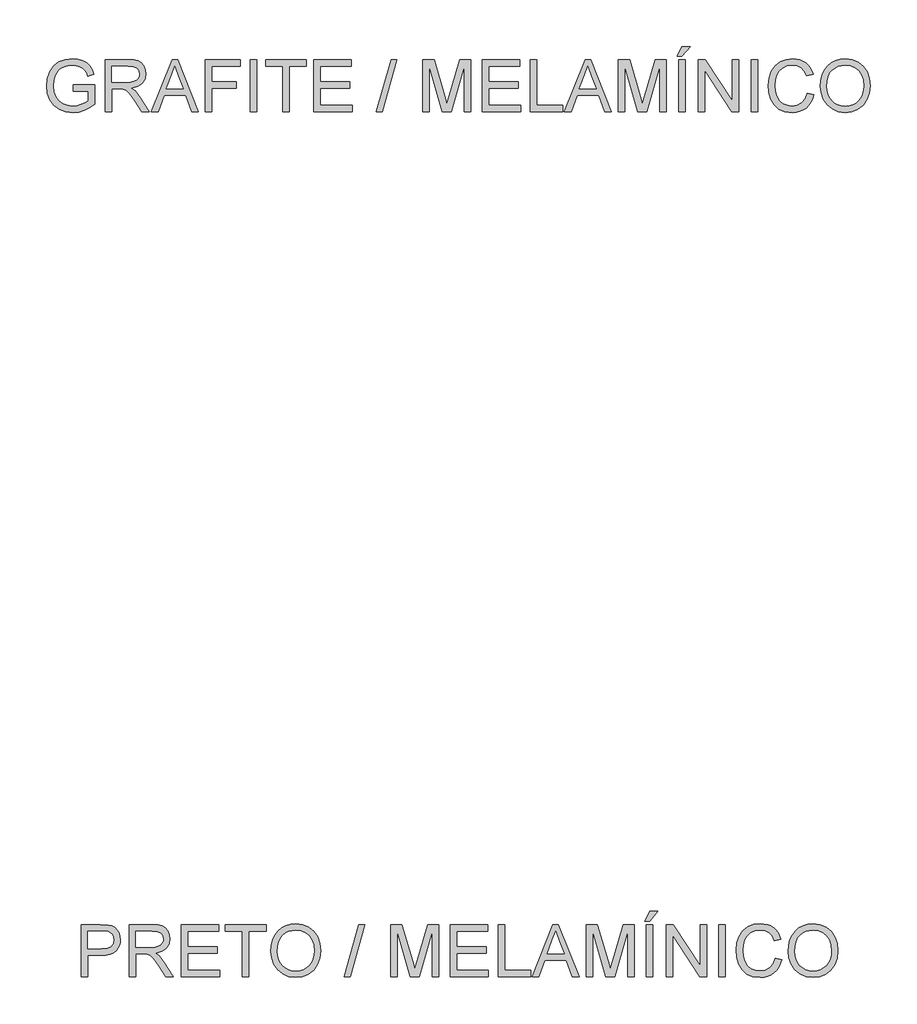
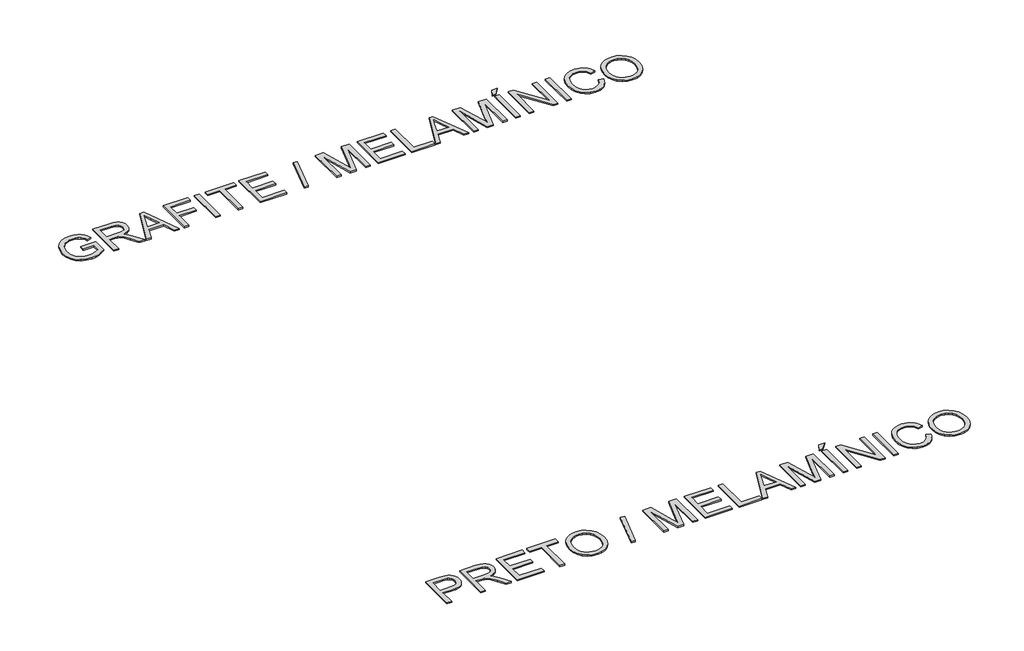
# One storey, part 31 of 67: 2 proxies.
"""IFC4 building model written with IfcOpenShell, lengths in millimetres."""

from ifc_helpers import new_model, si_unit, origin, origin_with_axes, place, context, project, spatial, polyline, outline, extrude, element, save

model = new_model("IFC4")

# Units and contexts
model_context = context("Model", 3, world=origin())
ifc_project = project(units=[si_unit("LENGTHUNIT", "METRE", prefix="MILLI")], contexts=[model_context])

# Site, building, storey
site = spatial("IfcSite", under=ifc_project)
building = spatial("IfcBuilding", under=site)
storey = spatial("IfcBuildingStorey", under=building, Name="Marelli - Linha COLAB - Planta Baixa", Elevation=0.0)

# Proxies
placement = place(None, origin())
element("IfcBuildingElementProxy", 1, Name="300mm Arial", ObjectType="300mm Arial", at=placement, inside=storey, context=model_context, shape_type="SweptSolid", body=[
    extrude(outline(polyline([(31176.9629078, -122412.8440816), (31176.9629078, -122375.1729653), (31299.3940358, -122375.1729653), (31299.3940358, -122487.8184322), (31269.6415794, -122508.5117945), (31238.951024, -122523.355833), (31207.3959458, -122532.2953654), (31175.0499214, -122535.2752096), (31132.7894772, -122530.5387289), (31094.594129, -122516.3292869), (31062.864307, -122493.1435241), (31040.000441, -122461.4780814), (31026.177275, -122423.4942654), (31021.569553, -122381.3533828), (31026.1588809, -122338.9089976), (31039.9268646, -122299.4260625), (31062.3032869, -122266.3074859), (31092.7179309, -122242.9561762), (31129.7636478, -122229.1054191), (31172.033289, -122224.4885001), (31203.0641353, -122227.1648416), (31230.9679847, -122235.1938661), (31254.4664471, -122247.9961596), (31272.2811327, -122264.9923077), (31285.4605052, -122287.0008481), (31295.0530282, -122314.8403181), (31260.3249679, -122324.6259792), (31252.5718548, -122304.7695485), (31243.1448787, -122289.7875542), (31230.6736791, -122278.493577), (31213.7878955, -122269.7011973), (31193.6555533, -122264.0450116), (31171.4446778, -122262.1596164), (31145.4446178, -122264.1921644), (31123.2153483, -122270.2898085), (31104.8396426, -122279.6891935), (31090.4002743, -122291.6269642), (31071.0128932, -122320.6528536), (31062.1837253, -122349.0901318), (31059.2406693, -122379.8082784), (31062.7815335, -122415.8331228), (31073.4041261, -122445.4752146), (31090.7865504, -122468.5230216), (31114.6069096, -122484.7650117), (31142.4831678, -122494.3943229), (31172.033289, -122497.6040933), (31198.1253195, -122495.1852692), (31223.5735566, -122487.9287968), (31245.6740674, -122477.9316036), (31261.7229195, -122467.2906169), (31261.7229195, -122412.8440816), (31176.9629078, -122412.8440816)])), origin_with_axes(), (0.0, 0.0, 1.0), 10.0),
    extrude(outline(polyline([(31360.6095998, -122530.5663201), (31360.6095998, -122229.1973896), (31490.4719441, -122229.1973896), (31525.3747483, -122231.2299376), (31550.7678031, -122237.3275817), (31569.3274497, -122248.5847708), (31583.7300298, -122266.0959537), (31592.973065, -122287.8101885), (31596.0540767, -122311.6765329), (31590.949714, -122341.3646099), (31575.6366259, -122365.9759154), (31564.0368468, -122376.0052983), (31549.65496, -122384.0205273), (31512.5448638, -122394.0085235), (31533.9555959, -122410.1217548), (31564.4898015, -122448.8965171), (31614.742482, -122530.5663201), (31570.9645246, -122530.5663201), (31531.7483039, -122468.0999573), (31503.4213903, -122426.750021), (31483.5189743, -122407.2154871), (31465.6031212, -122400.0417882), (31443.7509307, -122398.717413), (31398.2807161, -122398.717413), (31398.2807161, -122530.5663201), (31360.6095998, -122530.5663201)]), holes=[polyline([(31398.2807161, -122361.0462967), (31482.5992694, -122361.0462967), (31506.8151017, -122359.7127245), (31525.6046746, -122355.7120078), (31539.7497373, -122348.7774322), (31550.0320391, -122338.6422832), (31556.29523, -122326.3826157), (31558.3829604, -122313.0744845), (31554.4006378, -122294.6987789), (31542.45367, -122279.8915286), (31521.8982635, -122270.1242616), (31492.0906248, -122266.8685059), (31398.2807161, -122266.8685059), (31398.2807161, -122361.0462967)])]), origin_with_axes(), (0.0, 0.0, 1.0), 10.0),
    extrude(outline(polyline([(31626.8825879, -122530.5663201), (31747.1800003, -122229.1973896), (31779.2593103, -122229.1973896), (31899.5567227, -122530.5663201), (31859.7518908, -122530.5663201), (31825.2445597, -122436.3885293), (31701.1211745, -122436.3885293), (31666.6874197, -122530.5663201), (31626.8825879, -122530.5663201)]), holes=[polyline([(31714.9535375, -122398.717413), (31811.485773, -122398.717413), (31784.3360818, -122324.6259792), (31763.2196553, -122266.8685059), (31744.4576735, -122318.1512561), (31714.9535375, -122398.717413)])]), origin_with_axes(), (0.0, 0.0, 1.0), 10.0),
    extrude(outline(polyline([(31939.803013, -122530.5663201), (31939.803013, -122229.1973896), (32142.2852631, -122229.1973896), (32142.2852631, -122266.8685059), (31977.4741293, -122266.8685059), (31977.4741293, -122356.3374072), (32118.7408154, -122356.3374072), (32118.7408154, -122394.0085235), (31977.4741293, -122394.0085235), (31977.4741293, -122530.5663201), (31939.803013, -122530.5663201)])), origin_with_axes(), (0.0, 0.0, 1.0), 10.0),
    extrude(outline(polyline([(32198.7919376, -122530.5663201), (32198.7919376, -122229.1973896), (32236.4630539, -122229.1973896), (32236.4630539, -122530.5663201), (32198.7919376, -122530.5663201)])), origin_with_axes(), (0.0, 0.0, 1.0), 10.0),
    extrude(outline(polyline([(32387.1475191, -122530.5663201), (32387.1475191, -122266.8685059), (32288.2608388, -122266.8685059), (32288.2608388, -122229.1973896), (32523.7053157, -122229.1973896), (32523.7053157, -122266.8685059), (32424.8186354, -122266.8685059), (32424.8186354, -122530.5663201), (32387.1475191, -122530.5663201)])), origin_with_axes(), (0.0, 0.0, 1.0), 10.0),
    extrude(outline(polyline([(32566.0853216, -122530.5663201), (32566.0853216, -122229.1973896), (32782.6942403, -122229.1973896), (32782.6942403, -122266.8685059), (32603.7564379, -122266.8685059), (32603.7564379, -122356.3374072), (32773.2764612, -122356.3374072), (32773.2764612, -122394.0085235), (32603.7564379, -122394.0085235), (32603.7564379, -122492.8952038), (32787.4031299, -122492.8952038), (32787.4031299, -122530.5663201), (32566.0853216, -122530.5663201)])), origin_with_axes(), (0.0, 0.0, 1.0), 10.0),
    extrude(outline(polyline([(32928.669816, -122530.5663201), (33013.4298277, -122229.1973896), (33047.422124, -122229.1973896), (32962.6621124, -122530.5663201), (32928.669816, -122530.5663201)])), origin_with_axes(), (0.0, 0.0, 1.0), 10.0),
    extrude(outline(polyline([(33197.0765197, -122530.5663201), (33197.0765197, -122229.1973896), (33261.8973272, -122229.1973896), (33323.5543496, -122441.6124536), (33335.9887611, -122485.9790223), (33349.4532421, -122437.9336337), (33410.0801949, -122229.1973896), (33474.9010024, -122229.1973896), (33474.9010024, -122530.5663201), (33437.2298861, -122530.5663201), (33437.2298861, -122266.8685059), (33361.5197715, -122530.5663201), (33310.4577506, -122530.5663201), (33234.747636, -122266.8685059), (33234.747636, -122530.5663201), (33197.0765197, -122530.5663201)])), origin_with_axes(), (0.0, 0.0, 1.0), 10.0),
    extrude(outline(polyline([(33540.825456, -122530.5663201), (33540.825456, -122229.1973896), (33757.4343747, -122229.1973896), (33757.4343747, -122266.8685059), (33578.4965723, -122266.8685059), (33578.4965723, -122356.3374072), (33748.0165957, -122356.3374072), (33748.0165957, -122394.0085235), (33578.4965723, -122394.0085235), (33578.4965723, -122492.8952038), (33762.1432643, -122492.8952038), (33762.1432643, -122530.5663201), (33540.825456, -122530.5663201)])), origin_with_axes(), (0.0, 0.0, 1.0), 10.0),
    extrude(outline(polyline([(33818.6499387, -122530.5663201), (33818.6499387, -122229.1973896), (33856.321055, -122229.1973896), (33856.321055, -122492.8952038), (34007.0055203, -122492.8952038), (34007.0055203, -122530.5663201), (33818.6499387, -122530.5663201)])), origin_with_axes(), (0.0, 0.0, 1.0), 10.0),
    extrude(outline(polyline([(34014.2895838, -122530.5663201), (34134.5869962, -122229.1973896), (34166.6663062, -122229.1973896), (34286.9637186, -122530.5663201), (34247.1588867, -122530.5663201), (34212.6515556, -122436.3885293), (34088.5281704, -122436.3885293), (34054.0944156, -122530.5663201), (34014.2895838, -122530.5663201)]), holes=[polyline([(34102.3605334, -122398.717413), (34198.8927689, -122398.717413), (34171.7430777, -122324.6259792), (34150.6266512, -122266.8685059), (34131.8646694, -122318.1512561), (34102.3605334, -122398.717413)])]), origin_with_axes(), (0.0, 0.0, 1.0), 10.0),
    extrude(outline(polyline([(34327.2100089, -122530.5663201), (34327.2100089, -122229.1973896), (34392.0308164, -122229.1973896), (34453.6878388, -122441.6124536), (34466.1222502, -122485.9790223), (34479.5867313, -122437.9336337), (34540.2136841, -122229.1973896), (34605.0344916, -122229.1973896), (34605.0344916, -122530.5663201), (34567.3633753, -122530.5663201), (34567.3633753, -122266.8685059), (34491.6532607, -122530.5663201), (34440.5912398, -122530.5663201), (34364.8811252, -122266.8685059), (34364.8811252, -122530.5663201), (34327.2100089, -122530.5663201)])), origin_with_axes(), (0.0, 0.0, 1.0), 10.0),
    extrude(outline(polyline([(34675.6678347, -122530.5663201), (34675.6678347, -122229.1973896), (34713.338951, -122229.1973896), (34713.338951, -122530.5663201), (34675.6678347, -122530.5663201)])), origin_with_axes(), (0.0, 0.0, 1.0), 10.0),
    extrude(outline(polyline([(34666.2500556, -122210.3618315), (34694.5033928, -122153.855157), (34741.5922882, -122153.855157), (34694.5033928, -122210.3618315), (34666.2500556, -122210.3618315)])), origin_with_axes(), (0.0, 0.0, 1.0), 10.0),
    extrude(outline(polyline([(34788.6811836, -122530.5663201), (34788.6811836, -122229.1973896), (34829.0010503, -122229.1973896), (34986.4545442, -122467.9528045), (34986.4545442, -122229.1973896), (35024.1256605, -122229.1973896), (35024.1256605, -122530.5663201), (34983.8057939, -122530.5663201), (34826.3522999, -122291.7373288), (34826.3522999, -122530.5663201), (34788.6811836, -122530.5663201)])), origin_with_axes(), (0.0, 0.0, 1.0), 10.0),
    extrude(outline(polyline([(35094.7590036, -122530.5663201), (35094.7590036, -122229.1973896), (35132.4301199, -122229.1973896), (35132.4301199, -122530.5663201), (35094.7590036, -122530.5663201)])), origin_with_axes(), (0.0, 0.0, 1.0), 10.0),
    extrude(outline(polyline([(35419.6723817, -122423.4390831), (35457.343498, -122433.1511677), (35449.8892891, -122456.5783531), (35439.9610738, -122477.0486868), (35427.558852, -122494.5621691), (35412.6826238, -122509.1187997), (35395.6680816, -122520.5622291), (35376.8509175, -122528.7361071), (35356.2311317, -122533.640434), (35333.8087241, -122535.2752096), (35290.1135401, -122530.3271968), (35255.4130709, -122515.4831583), (35228.8152026, -122491.2581289), (35209.4278215, -122458.1671434), (35197.5912183, -122419.2636224), (35193.6456839, -122377.6009865), (35198.1062531, -122333.6574821), (35211.4879607, -122295.7104543), (35233.0918308, -122264.9647166), (35262.2188878, -122242.6250824), (35296.7630072, -122229.0226457), (35334.6180645, -122224.4885001), (35375.9220155, -122230.3562179), (35393.8907517, -122237.6908652), (35410.0706617, -122247.9593714), (35424.195031, -122260.8904235), (35435.9971453, -122276.2127086), (35452.6346085, -122314.0309777), (35414.9634922, -122323.0072984), (35401.9036814, -122295.5357104), (35384.0614046, -122276.6909552), (35361.2159327, -122265.7924511), (35333.1465365, -122262.1596164), (35300.791315, -122266.1879242), (35274.2118408, -122278.2728478), (35254.0427105, -122297.1451941), (35240.9185203, -122321.5357704), (35233.7172302, -122349.1085259), (35231.3168002, -122377.5274101), (35234.1586886, -122412.3290468), (35242.6843539, -122442.421794), (35257.2156927, -122466.6560205), (35278.0746018, -122483.8820949), (35303.0813804, -122494.1735937), (35330.0563277, -122497.6040933), (35361.5010413, -122492.931992), (35387.7034364, -122478.9156879), (35407.4862907, -122455.702334), (35419.6723817, -122423.4390831)])), origin_with_axes(), (0.0, 0.0, 1.0), 10.0),
    extrude(outline(polyline([(35495.0146144, -122383.8549804), (35497.525409, -122348.5061192), (35505.0577928, -122317.213157), (35517.6117659, -122289.9760937), (35535.1873282, -122266.7949295), (35556.7314176, -122248.2858666), (35581.1909717, -122235.0651074), (35608.5659907, -122227.1326519), (35638.8564745, -122224.4885001), (35678.3853949, -122229.454907), (35713.8308251, -122244.3541278), (35743.2613847, -122268.1376988), (35764.7456932, -122299.7571563), (35777.8790804, -122337.68579), (35782.2568762, -122380.3968896), (35777.6491542, -122423.6782064), (35763.8259882, -122462.140269), (35741.5507334, -122493.8149087), (35711.5867449, -122516.733957), (35676.4448173, -122530.6398965), (35638.6357453, -122535.2752096), (35598.4998196, -122530.1524528), (35562.8520543, -122514.7841825), (35533.495071, -122490.5591531), (35512.2314917, -122458.8661192), (35499.3188337, -122422.3998164), (35495.0146144, -122383.8549804)]), holes=[polyline([(35532.6857307, -122384.2228624), (35534.5688266, -122409.1974513), (35540.2181145, -122431.3669401), (35549.6335943, -122450.7313286), (35562.8152661, -122467.2906169), (35578.8388262, -122480.5527628), (35596.7799713, -122490.0257242), (35616.6387012, -122495.709501), (35638.4150161, -122497.6040933), (35660.5638114, -122495.6911069), (35680.6570662, -122489.9521478), (35698.6947802, -122480.3872159), (35714.6769537, -122466.9963113), (35727.7620564, -122450.0875351), (35737.1085583, -122429.9689885), (35742.7164595, -122406.6406715), (35744.5857599, -122380.102584), (35741.3851865, -122346.7540812), (35731.7834665, -122317.9305269), (35716.02892, -122294.358488), (35694.3698675, -122276.7645316), (35668.2410488, -122265.8108452), (35639.0772037, -122262.1596164), (35618.0573462, -122263.9185522), (35598.5550019, -122269.1953595), (35580.5701709, -122277.9900385), (35564.102853, -122290.302589), (35550.357862, -122306.7262208), (35540.5400113, -122327.8541437), (35534.6493008, -122353.6863575), (35532.6857307, -122384.2228624)])]), origin_with_axes(), (0.0, 0.0, 1.0), 10.0),
])
element("IfcBuildingElementProxy", 2, Name="300mm Arial", ObjectType="300mm Arial", at=placement, inside=storey, context=model_context, shape_type="SweptSolid", body=[
    extrude(outline(polyline([(31221.6973584, -127530.5663201), (31221.6973584, -127229.1973896), (31333.3863321, -127229.1973896), (31378.4150883, -127232.0668692), (31398.4922482, -127237.4287493), (31415.0193468, -127246.1567496), (31428.327478, -127258.6463433), (31438.7477355, -127275.2930036), (31445.479976, -127294.9287051), (31447.7240562, -127316.3854225), (31446.2088422, -127334.8852883), (31441.6632003, -127351.9044291), (31434.0871305, -127367.4428449), (31423.4806327, -127381.5005356), (31408.9194035, -127393.1531978), (31389.4791393, -127401.476528), (31365.1598402, -127406.470526), (31335.9615061, -127408.1351921), (31259.3684747, -127408.1351921), (31259.3684747, -127530.5663201), (31221.6973584, -127530.5663201)]), holes=[polyline([(31259.3684747, -127370.4640758), (31338.1687981, -127370.4640758), (31371.5724832, -127367.005985), (31393.6454029, -127356.6317127), (31405.9510557, -127339.9850525), (31410.0529399, -127317.7097977), (31407.6341158, -127300.7872259), (31400.3776434, -127286.5134045), (31389.1848337, -127275.7712502), (31374.9569976, -127269.4436799), (31337.2858813, -127266.8685059), (31259.3684747, -127266.8685059), (31259.3684747, -127370.4640758)])]), origin_with_axes(), (0.0, 0.0, 1.0), 10.0),
    extrude(outline(polyline([(31499.5218411, -127530.5663201), (31499.5218411, -127229.1973896), (31629.3841854, -127229.1973896), (31664.2869897, -127231.2299376), (31689.6800444, -127237.3275817), (31708.2396911, -127248.5847708), (31722.6422712, -127266.0959537), (31731.8853063, -127287.8101885), (31734.9663181, -127311.6765329), (31729.8619554, -127341.3646099), (31714.5488673, -127365.9759154), (31702.9490882, -127376.0052983), (31688.5672014, -127384.0205273), (31651.4571051, -127394.0085235), (31672.8678373, -127410.1217548), (31703.4020429, -127448.8965171), (31753.6547234, -127530.5663201), (31709.876766, -127530.5663201), (31670.6605453, -127468.0999573), (31642.3336317, -127426.750021), (31622.4312157, -127407.2154871), (31604.5153626, -127400.0417882), (31582.663172, -127398.717413), (31537.1929574, -127398.717413), (31537.1929574, -127530.5663201), (31499.5218411, -127530.5663201)]), holes=[polyline([(31537.1929574, -127361.0462967), (31621.5115107, -127361.0462967), (31645.7273431, -127359.7127245), (31664.516916, -127355.7120078), (31678.6619787, -127348.7774322), (31688.9442805, -127338.6422832), (31695.2074714, -127326.3826157), (31697.2952017, -127313.0744845), (31693.3128791, -127294.6987789), (31681.3659114, -127279.8915286), (31660.8105049, -127270.1242616), (31631.0028662, -127266.8685059), (31537.1929574, -127266.8685059), (31537.1929574, -127361.0462967)])]), origin_with_axes(), (0.0, 0.0, 1.0), 10.0),
    extrude(outline(polyline([(31800.8907716, -127530.5663201), (31800.8907716, -127229.1973896), (32017.4996903, -127229.1973896), (32017.4996903, -127266.8685059), (31838.5618879, -127266.8685059), (31838.5618879, -127356.3374072), (32008.0819113, -127356.3374072), (32008.0819113, -127394.0085235), (31838.5618879, -127394.0085235), (31838.5618879, -127492.8952038), (32022.2085799, -127492.8952038), (32022.2085799, -127530.5663201), (31800.8907716, -127530.5663201)])), origin_with_axes(), (0.0, 0.0, 1.0), 10.0),
    extrude(outline(polyline([(32154.057487, -127530.5663201), (32154.057487, -127266.8685059), (32055.1708067, -127266.8685059), (32055.1708067, -127229.1973896), (32290.6152836, -127229.1973896), (32290.6152836, -127266.8685059), (32191.7286033, -127266.8685059), (32191.7286033, -127530.5663201), (32154.057487, -127530.5663201)])), origin_with_axes(), (0.0, 0.0, 1.0), 10.0),
    extrude(outline(polyline([(32318.8686208, -127383.8549804), (32321.3794154, -127348.5061192), (32328.9117993, -127317.213157), (32341.4657723, -127289.9760937), (32359.0413347, -127266.7949295), (32380.585424, -127248.2858666), (32405.0449782, -127235.0651074), (32432.4199971, -127227.1326519), (32462.7104809, -127224.4885001), (32502.2394013, -127229.454907), (32537.6848315, -127244.3541278), (32567.1153911, -127268.1376988), (32588.5996997, -127299.7571563), (32601.7330869, -127337.68579), (32606.1108826, -127380.3968896), (32601.5031606, -127423.6782064), (32587.6799947, -127462.140269), (32565.4047399, -127493.8149087), (32535.4407514, -127516.733957), (32500.2988238, -127530.6398965), (32462.4897517, -127535.2752096), (32422.353826, -127530.1524528), (32386.7060607, -127514.7841825), (32357.3490775, -127490.5591531), (32336.0854982, -127458.8661192), (32323.1728401, -127422.3998164), (32318.8686208, -127383.8549804)]), holes=[polyline([(32356.5397371, -127384.2228624), (32358.4228331, -127409.1974513), (32364.072121, -127431.3669401), (32373.4876008, -127450.7313286), (32386.6692725, -127467.2906169), (32402.6928327, -127480.5527628), (32420.6339777, -127490.0257242), (32440.4927077, -127495.709501), (32462.2690225, -127497.6040933), (32484.4178179, -127495.6911069), (32504.5110726, -127489.9521478), (32522.5487867, -127480.3872159), (32538.5309601, -127466.9963113), (32551.6160628, -127450.0875351), (32560.9625648, -127429.9689885), (32566.5704659, -127406.6406715), (32568.4397663, -127380.102584), (32565.239193, -127346.7540812), (32555.6374729, -127317.9305269), (32539.8829264, -127294.358488), (32518.223874, -127276.7645316), (32492.0950553, -127265.8108452), (32462.9312101, -127262.1596164), (32441.9113526, -127263.9185522), (32422.4090083, -127269.1953595), (32404.4241773, -127277.9900385), (32387.9568595, -127290.302589), (32374.2118684, -127306.7262208), (32364.3940177, -127327.8541437), (32358.5033073, -127353.6863575), (32356.5397371, -127384.2228624)])]), origin_with_axes(), (0.0, 0.0, 1.0), 10.0),
    extrude(outline(polyline([(32742.6686792, -127530.5663201), (32827.4286909, -127229.1973896), (32861.4209873, -127229.1973896), (32776.6609756, -127530.5663201), (32742.6686792, -127530.5663201)])), origin_with_axes(), (0.0, 0.0, 1.0), 10.0),
    extrude(outline(polyline([(33011.0753829, -127530.5663201), (33011.0753829, -127229.1973896), (33075.8961905, -127229.1973896), (33137.5532129, -127441.6124536), (33149.9876243, -127485.9790223), (33163.4521053, -127437.9336337), (33224.0790581, -127229.1973896), (33288.8998657, -127229.1973896), (33288.8998657, -127530.5663201), (33251.2287494, -127530.5663201), (33251.2287494, -127266.8685059), (33175.5186348, -127530.5663201), (33124.4566138, -127530.5663201), (33048.7464992, -127266.8685059), (33048.7464992, -127530.5663201), (33011.0753829, -127530.5663201)])), origin_with_axes(), (0.0, 0.0, 1.0), 10.0),
    extrude(outline(polyline([(33354.8243192, -127530.5663201), (33354.8243192, -127229.1973896), (33571.433238, -127229.1973896), (33571.433238, -127266.8685059), (33392.4954355, -127266.8685059), (33392.4954355, -127356.3374072), (33562.0154589, -127356.3374072), (33562.0154589, -127394.0085235), (33392.4954355, -127394.0085235), (33392.4954355, -127492.8952038), (33576.1421275, -127492.8952038), (33576.1421275, -127530.5663201), (33354.8243192, -127530.5663201)])), origin_with_axes(), (0.0, 0.0, 1.0), 10.0),
    extrude(outline(polyline([(33632.648802, -127530.5663201), (33632.648802, -127229.1973896), (33670.3199183, -127229.1973896), (33670.3199183, -127492.8952038), (33821.0043835, -127492.8952038), (33821.0043835, -127530.5663201), (33632.648802, -127530.5663201)])), origin_with_axes(), (0.0, 0.0, 1.0), 10.0),
    extrude(outline(polyline([(33828.288447, -127530.5663201), (33948.5858594, -127229.1973896), (33980.6651694, -127229.1973896), (34100.9625818, -127530.5663201), (34061.15775, -127530.5663201), (34026.6504188, -127436.3885293), (33902.5270336, -127436.3885293), (33868.0932789, -127530.5663201), (33828.288447, -127530.5663201)]), holes=[polyline([(33916.3593967, -127398.717413), (34012.8916322, -127398.717413), (33985.7419409, -127324.6259792), (33964.6255144, -127266.8685059), (33945.8635327, -127318.1512561), (33916.3593967, -127398.717413)])]), origin_with_axes(), (0.0, 0.0, 1.0), 10.0),
    extrude(outline(polyline([(34141.2088721, -127530.5663201), (34141.2088721, -127229.1973896), (34206.0296797, -127229.1973896), (34267.686702, -127441.6124536), (34280.1211135, -127485.9790223), (34293.5855945, -127437.9336337), (34354.2125473, -127229.1973896), (34419.0333549, -127229.1973896), (34419.0333549, -127530.5663201), (34381.3622386, -127530.5663201), (34381.3622386, -127266.8685059), (34305.6521239, -127530.5663201), (34254.590103, -127530.5663201), (34178.8799884, -127266.8685059), (34178.8799884, -127530.5663201), (34141.2088721, -127530.5663201)])), origin_with_axes(), (0.0, 0.0, 1.0), 10.0),
    extrude(outline(polyline([(34489.6666979, -127530.5663201), (34489.6666979, -127229.1973896), (34527.3378142, -127229.1973896), (34527.3378142, -127530.5663201), (34489.6666979, -127530.5663201)])), origin_with_axes(), (0.0, 0.0, 1.0), 10.0),
    extrude(outline(polyline([(34480.2489189, -127210.3618315), (34508.5022561, -127153.855157), (34555.5911515, -127153.855157), (34508.5022561, -127210.3618315), (34480.2489189, -127210.3618315)])), origin_with_axes(), (0.0, 0.0, 1.0), 10.0),
    extrude(outline(polyline([(34602.6800469, -127530.5663201), (34602.6800469, -127229.1973896), (34642.9999135, -127229.1973896), (34800.4534075, -127467.9528045), (34800.4534075, -127229.1973896), (34838.1245238, -127229.1973896), (34838.1245238, -127530.5663201), (34797.8046571, -127530.5663201), (34640.3511632, -127291.7373288), (34640.3511632, -127530.5663201), (34602.6800469, -127530.5663201)])), origin_with_axes(), (0.0, 0.0, 1.0), 10.0),
    extrude(outline(polyline([(34908.7578668, -127530.5663201), (34908.7578668, -127229.1973896), (34946.4289831, -127229.1973896), (34946.4289831, -127530.5663201), (34908.7578668, -127530.5663201)])), origin_with_axes(), (0.0, 0.0, 1.0), 10.0),
    extrude(outline(polyline([(35233.671245, -127423.4390831), (35271.3423613, -127433.1511677), (35263.8881524, -127456.5783531), (35253.959937, -127477.0486868), (35241.5577153, -127494.5621691), (35226.6814871, -127509.1187997), (35209.6669448, -127520.5622291), (35190.8497807, -127528.7361071), (35170.2299949, -127533.640434), (35147.8075873, -127535.2752096), (35104.1124033, -127530.3271968), (35069.4119341, -127515.4831583), (35042.8140659, -127491.2581289), (35023.4266847, -127458.1671434), (35011.5900815, -127419.2636224), (35007.6445471, -127377.6009865), (35012.1051163, -127333.6574821), (35025.4868239, -127295.7104543), (35047.0906941, -127264.9647166), (35076.217751, -127242.6250824), (35110.7618704, -127229.0226457), (35148.6169277, -127224.4885001), (35189.9208787, -127230.3562179), (35207.8896149, -127237.6908652), (35224.0695249, -127247.9593714), (35238.1938943, -127260.8904235), (35249.9960085, -127276.2127086), (35266.6334717, -127314.0309777), (35228.9623554, -127323.0072984), (35215.9025446, -127295.5357104), (35198.0602678, -127276.6909552), (35175.2147959, -127265.7924511), (35147.1453997, -127262.1596164), (35114.7901782, -127266.1879242), (35088.2107041, -127278.2728478), (35068.0415737, -127297.1451941), (35054.9173835, -127321.5357704), (35047.7160935, -127349.1085259), (35045.3156635, -127377.5274101), (35048.1575519, -127412.3290468), (35056.6832171, -127442.421794), (35071.2145559, -127466.6560205), (35092.073465, -127483.8820949), (35117.0802437, -127494.1735937), (35144.055191, -127497.6040933), (35175.4999045, -127492.931992), (35201.7022996, -127478.9156879), (35221.4851539, -127455.702334), (35233.671245, -127423.4390831)])), origin_with_axes(), (0.0, 0.0, 1.0), 10.0),
    extrude(outline(polyline([(35309.0134776, -127383.8549804), (35311.5242722, -127348.5061192), (35319.0566561, -127317.213157), (35331.6106291, -127289.9760937), (35349.1861915, -127266.7949295), (35370.7302808, -127248.2858666), (35395.189835, -127235.0651074), (35422.5648539, -127227.1326519), (35452.8553377, -127224.4885001), (35492.3842581, -127229.454907), (35527.8296883, -127244.3541278), (35557.2602479, -127268.1376988), (35578.7445565, -127299.7571563), (35591.8779437, -127337.68579), (35596.2557394, -127380.3968896), (35591.6480174, -127423.6782064), (35577.8248515, -127462.140269), (35555.5495967, -127493.8149087), (35525.5856082, -127516.733957), (35490.4436806, -127530.6398965), (35452.6346085, -127535.2752096), (35412.4986828, -127530.1524528), (35376.8509175, -127514.7841825), (35347.4939343, -127490.5591531), (35326.230355, -127458.8661192), (35313.3176969, -127422.3998164), (35309.0134776, -127383.8549804)]), holes=[polyline([(35346.6845939, -127384.2228624), (35348.5676899, -127409.1974513), (35354.2169778, -127431.3669401), (35363.6324576, -127450.7313286), (35376.8141293, -127467.2906169), (35392.8376895, -127480.5527628), (35410.7788345, -127490.0257242), (35430.6375645, -127495.709501), (35452.4138793, -127497.6040933), (35474.5626747, -127495.6911069), (35494.6559294, -127489.9521478), (35512.6936435, -127480.3872159), (35528.6758169, -127466.9963113), (35541.7609196, -127450.0875351), (35551.1074216, -127429.9689885), (35556.7153227, -127406.6406715), (35558.5846231, -127380.102584), (35555.3840498, -127346.7540812), (35545.7823297, -127317.9305269), (35530.0277832, -127294.358488), (35508.3687308, -127276.7645316), (35482.2399121, -127265.8108452), (35453.0760669, -127262.1596164), (35432.0562094, -127263.9185522), (35412.5538651, -127269.1953595), (35394.5690341, -127277.9900385), (35378.1017163, -127290.302589), (35364.3567252, -127306.7262208), (35354.5388745, -127327.8541437), (35348.648164, -127353.6863575), (35346.6845939, -127384.2228624)])]), origin_with_axes(), (0.0, 0.0, 1.0), 10.0),
])

save(model, "model.ifc")
